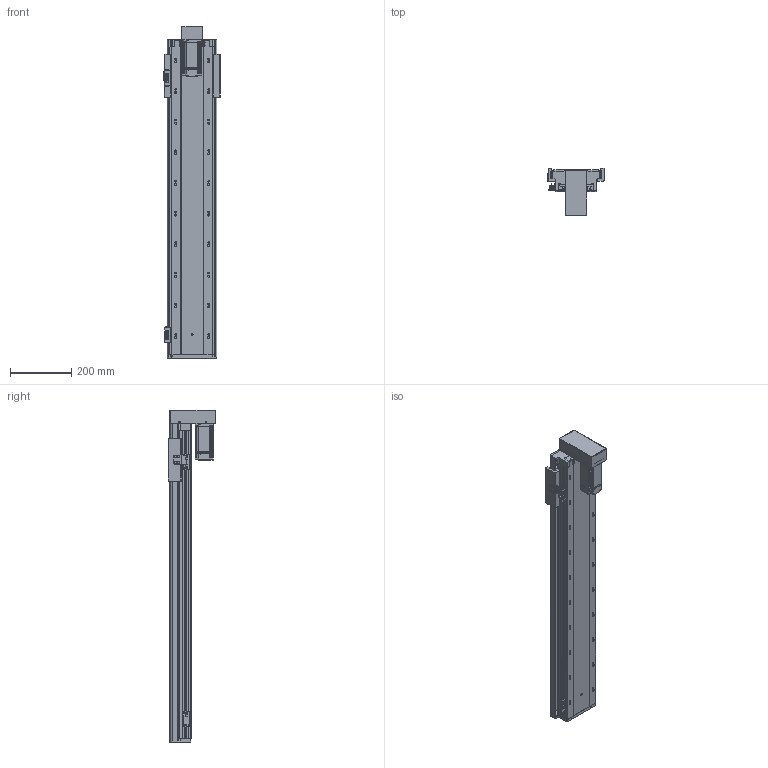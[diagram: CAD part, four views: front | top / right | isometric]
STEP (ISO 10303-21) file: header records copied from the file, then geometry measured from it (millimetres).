
FILE_DESCRIPTION (( 'STEP AP203' ), '1' );
FILE_NAME ('RY140FB-L2010-300-BK.SLDASM_800.step', '2021-02-23T02:29:02', ( '盈信电脑' ), ( '东莞市道滘镇水果街19号' ), 'SwSTEP 2.0', 'SolidWorks 2012', '' );
FILE_SCHEMA (( 'CONFIG_CONTROL_DESIGN' ));
Products named in the file (17): RY140FB-L2010-300-BK.SLDASM_800; RY140FB-覜茼え; RY140-674嫖萇耀輸; 覜茼ん674; RY140FB-300蛌殏奻裔啣-BK_800; RY140直线电机感应器674光电安装座; RY140FB-20佪裝臏賑輸; 15; 侂狟400W侜督萇儂; RY140狟殏萇儂欶; RY140FB-狟殏萇儂假蚾啣; RY140FB-转折电机端支撑座(7002); 滅袉蝶18-10; RY140FB-綴裔啣; 滅袉蝶18-24; RY140FB-300蛌殏倰第菁釱-BK_800
Assembly tree (20 placements, depth 3):
  RY140FB-L2010-300-BK.SLDASM_800
    RY140FB-300蛌殏倰第菁釱-BK_800
    RY140FB-綴裔啣
    滅袉蝶18-24  x2
    滅袉蝶18-10
    RY140FB-转折电机端支撑座(7002)
    侂狟400W侜督萇儂
      15
    RY140狟殏萇儂欶
    RY140FB-狟殏萇儂假蚾啣
    RY140FB-20佪裝臏賑輸
    RY140FB-300蛌殏奻裔啣-BK_800
    RY140-674嫖萇耀輸
      覜茼ん674  x2
      RY140直线电机感应器674光电安装座
    RY140-674嫖萇耀輸
      RY140直线电机感应器674光电安装座
      覜茼ん674
    RY140FB-覜茼え
Bounding box: 183 x 156 x 1084 mm (x, y, z)
Volume: 4184104.1 mm3; surface area: 1379627.6 mm2
Topology: 17 solids, 17 shells, 1822 faces, 5029 edges, 3197 vertices
Faces by surface type: cylinder 901, plane 719, cone 174, bspline 28
Entity records: 55431 total; most frequent: CARTESIAN_POINT 11355, DIRECTION 8926, ORIENTED_EDGE 8758, EDGE_CURVE 4379, AXIS2_PLACEMENT_3D 3228, VERTEX_POINT 2865, LINE 2470, VECTOR 2470
